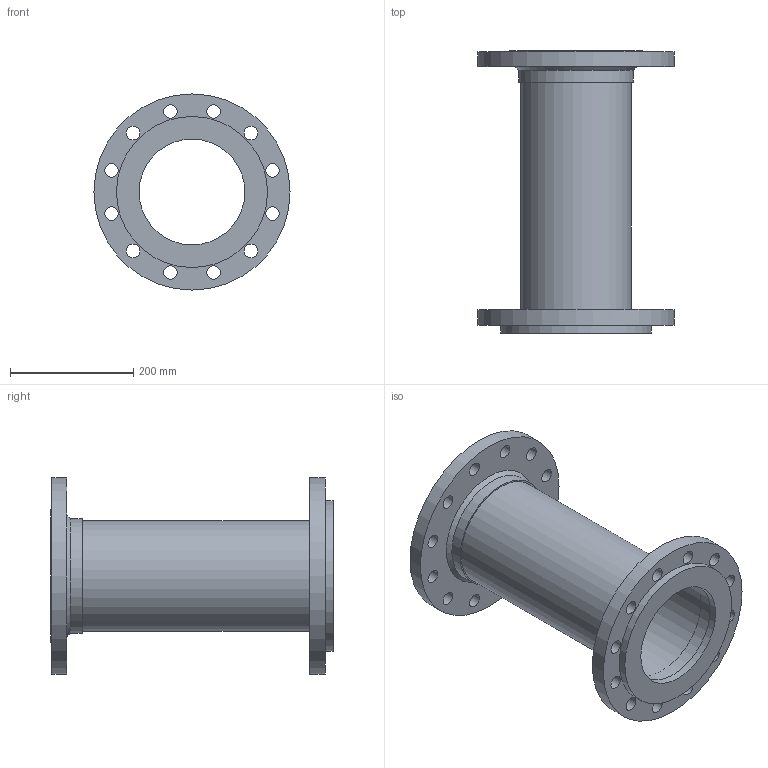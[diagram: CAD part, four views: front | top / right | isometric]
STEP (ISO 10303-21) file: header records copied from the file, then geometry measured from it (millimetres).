
FILE_DESCRIPTION(/* description */ (''),/* implementation_level */ '2;1');
FILE_NAME(/* name */ 'C:\001_Work\Designs\FFL2B-300\FFL2B-300-6x18.stp',/* time_stamp */ '2016-06-14T11:06:50-04:00',/* author */ ('rramoutar'),/* organization */ ('Mason Industries Inc.'),/* preprocessor_version */ 'ST-DEVELOPER v15.6',/* originating_system */ 'Autodesk Inventor 2015',/* authorisation */ '');
FILE_SCHEMA (('CONFIG_CONTROL_DESIGN'));
Length unit declared in the file: inch
Products named in the file (1): FFL2B-300-6x18
Bounding box: 317.5 x 457.2 x 317.5 mm (x, y, z)
Volume: 2870173.7 mm3; surface area: 875568 mm2
Topology: 1 solids, 1 shells, 53 faces, 144 edges, 104 vertices
Faces by surface type: cylinder 37, plane 13, cone 3
Full cylindrical faces by diameter (mm): 22.225 x24, 171.45 x2, 179.019 x1, 180.035 x1, 181.458 x2, 186.22 x2, 196.85 x1, 215.9 x1, 244.475 x1, 317.5 x2
Entity records: 1497 total; most frequent: DIRECTION 262, CARTESIAN_POINT 208, EDGE_LOOP 154, ORIENTED_EDGE 154, AXIS2_PLACEMENT_3D 131, FACE_BOUND 101, CIRCLE 77, VERTEX_POINT 77
